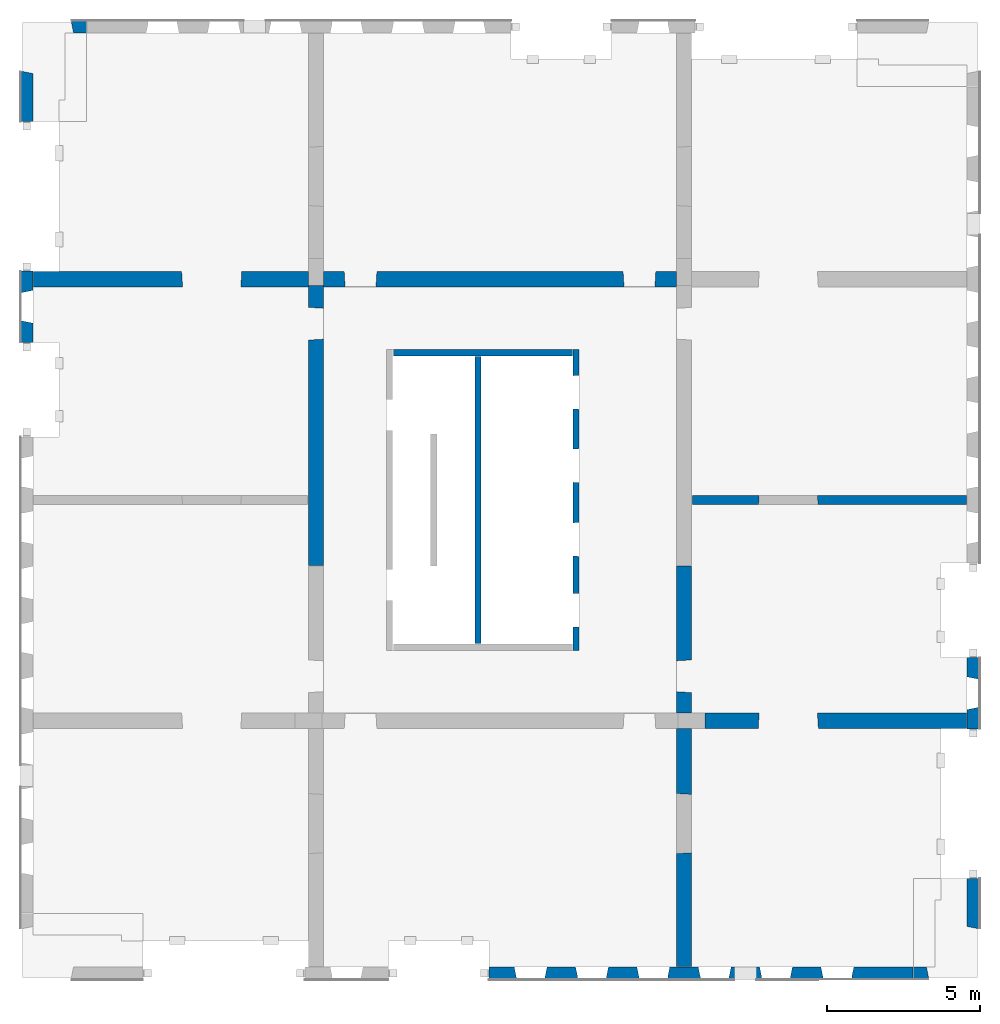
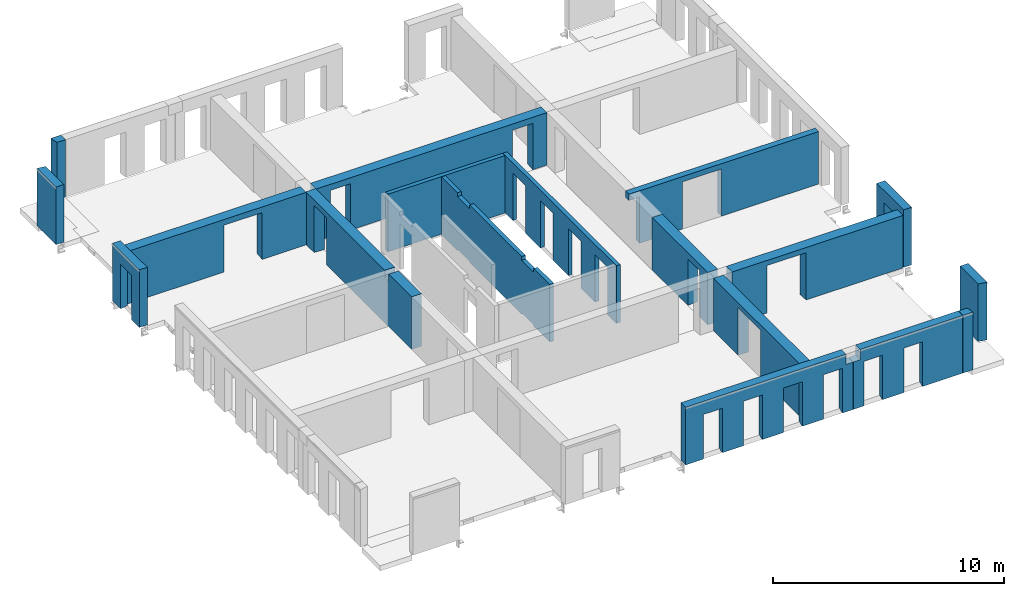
# One storey, part 3 of 5: 18 walls, 36 openings.
"""IFC2X3 building model written with IfcOpenShell, lengths in millimetres."""

from ifc_helpers import new_model, entity, si_unit, converted_unit, derived_unit, direction, frame, frame_2d, origin, origin_2d_with_axis, place, context, subcontext, project, spatial, rectangle, extrude, faceted_brep, material, layer, layer_set, layer_usage, type_object, element, save


model = new_model("IFC2X3")

# Units and contexts
model_context = context("Model", 3, precision=0.01, world=origin(), true_north=direction((6.12303176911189e-17, 1.0)))
body_context = subcontext(model_context, "Body", "Model", "MODEL_VIEW")
ifc_project = project(units=[si_unit("LENGTHUNIT", "METRE", prefix="MILLI"), si_unit("AREAUNIT", "SQUARE_METRE"), si_unit("VOLUMEUNIT", "CUBIC_METRE"), converted_unit("PLANEANGLEUNIT", "DEGREE", entity("IfcRatioMeasure", 0.0174532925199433), si_unit("PLANEANGLEUNIT", "RADIAN"), dimensions=[0, 0, 0, 0, 0, 0, 0]), si_unit("MASSUNIT", "GRAM", prefix="KILO"), derived_unit("MASSDENSITYUNIT", [(si_unit("MASSUNIT", "GRAM", prefix="KILO"), 1), (si_unit("LENGTHUNIT", "METRE"), -3)]), si_unit("TIMEUNIT", "SECOND"), si_unit("FREQUENCYUNIT", "HERTZ"), si_unit("THERMODYNAMICTEMPERATUREUNIT", "DEGREE_CELSIUS"), derived_unit("THERMALTRANSMITTANCEUNIT", [(si_unit("MASSUNIT", "GRAM", prefix="KILO"), 1), (si_unit("THERMODYNAMICTEMPERATUREUNIT", "KELVIN"), -1), (si_unit("TIMEUNIT", "SECOND"), -3)]), derived_unit("VOLUMETRICFLOWRATEUNIT", [(si_unit("LENGTHUNIT", "METRE"), 3), (si_unit("TIMEUNIT", "SECOND"), -1)]), si_unit("ELECTRICCURRENTUNIT", "AMPERE"), si_unit("ELECTRICVOLTAGEUNIT", "VOLT"), si_unit("POWERUNIT", "WATT"), si_unit("FORCEUNIT", "NEWTON", prefix="KILO"), si_unit("ILLUMINANCEUNIT", "LUX"), si_unit("LUMINOUSFLUXUNIT", "LUMEN"), si_unit("LUMINOUSINTENSITYUNIT", "CANDELA"), derived_unit("USERDEFINED", [(si_unit("MASSUNIT", "GRAM", prefix="KILO"), -1), (si_unit("LENGTHUNIT", "METRE"), -2), (si_unit("TIMEUNIT", "SECOND"), 3), (si_unit("LUMINOUSFLUXUNIT", "LUMEN"), 1)]), derived_unit("LINEARVELOCITYUNIT", [(si_unit("LENGTHUNIT", "METRE"), 1), (si_unit("TIMEUNIT", "SECOND"), -1)]), si_unit("PRESSUREUNIT", "PASCAL"), derived_unit("USERDEFINED", [(si_unit("LENGTHUNIT", "METRE"), -2), (si_unit("MASSUNIT", "GRAM", prefix="KILO"), 1), (si_unit("TIMEUNIT", "SECOND"), -2)])], contexts=[model_context])

# Site, building, storey
site_placement = place(None, origin())
site = spatial("IfcSite", under=ifc_project, at=site_placement, Name="Default", CompositionType="ELEMENT")
building_placement = place(site_placement, origin())
building = spatial("IfcBuilding", under=site, at=building_placement, Name="niet gebruiken", CompositionType="ELEMENT")
storey_placement = place(building_placement, frame((0.0, 0.0, 24120.0)))
storey = spatial("IfcBuildingStorey", under=building, at=storey_placement, Name="07 zevende verdieping", CompositionType="ELEMENT", Elevation=24120.0)

# Wall, openings
ifc_material = material(Name="NLRS_f2_beton prefab")
ifc_layer_1 = layer(ifc_material, 200.0)
ifc_layer_set_1 = layer_set([ifc_layer_1], Name="Basic Wall:NLRS_22.21_WA_beton prefab d=200_gen")
ifc_layer_usage_1 = layer_usage(ifc_layer_set_1, "AXIS2", "NEGATIVE", 100.0)
wall_type_1 = type_object("IfcWallType", Name="Basic Wall:NLRS_22.21_WA_beton prefab d=200_gen", PredefinedType="STANDARD", material=ifc_layer_set_1)
wall_1_placement = place(storey_placement, frame((144230.0, 22400.0, -50.0), z_axis=(0.0, 0.0, 1.0), x_axis=(0.0, -1.0, 0.0)))
wall_1 = element("IfcWallStandardCase", 1, at=wall_1_placement, inside=storey, type_object=wall_type_1, material=ifc_layer_usage_1, Name="Basic Wall:NLRS_22.21_WA_beton prefab d=200_gen", ObjectType="Basic Wall:NLRS_22.21_WA_beton prefab d=200_gen", context=body_context, shape_type="SweptSolid", body=[
    extrude(rectangle(XDim=9800.0, YDim=199.999999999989, at=frame_2d((4900.0, -3.69482222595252e-13), x_axis=(-1.0, 0.0))), origin(), (0.0, 0.0, 1.0), 3039.99999999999),
])
opening_1_placement = place(wall_1_placement, frame((9047.0, -100.0, 0.0)))
element("IfcOpeningElement", 2, at=opening_1_placement, cuts=wall_1, Name="Basic Wall:NLRS_22.21_WA_beton prefab d=200_gen", ObjectType="Opening", context=body_context, shape_type="Brep", body=[
    faceted_brep([(-1104.0, 200.0, 2502.0), (-1104.0, 200.0, 0.0), (-1092.0, 0.0, 0.0), (-1092.0, 0.0, 2490.0), (0.0, 200.0, 0.0), (-12.0, 0.0, 0.0), (-12.0, 0.0, 2490.0), (0.0, 200.0, 2502.0)], [[[0, 1, 2, 3]], [[1, 4, 5, 2]], [[6, 3, 2, 5]], [[7, 4, 1, 0]], [[7, 0, 3, 6]], [[4, 7, 6, 5]]]),
])
opening_2_placement = place(wall_1_placement, frame((6737.0, -100.0, 0.0)))
element("IfcOpeningElement", 3, at=opening_2_placement, cuts=wall_1, Name="Basic Wall:NLRS_22.21_WA_beton prefab d=200_gen", ObjectType="Opening", context=body_context, shape_type="Brep", body=[
    faceted_brep([(-1104.0, 200.0, 2502.0), (-1104.0, 200.0, 0.0), (-1092.0, 0.0, 0.0), (-1092.0, 0.0, 2490.0), (0.0, 200.0, 0.0), (-12.0, 0.0, 0.0), (-12.0, 0.0, 2490.0), (0.0, 200.0, 2502.0)], [[[0, 1, 2, 3]], [[1, 4, 5, 2]], [[6, 3, 2, 5]], [[7, 4, 1, 0]], [[7, 0, 3, 6]], [[4, 7, 6, 5]]]),
])
opening_3_placement = place(wall_1_placement, frame((4332.0, -100.0, 0.0)))
element("IfcOpeningElement", 4, at=opening_3_placement, cuts=wall_1, Name="Basic Wall:NLRS_22.21_WA_beton prefab d=200_gen", ObjectType="Opening", context=body_context, shape_type="Brep", body=[
    faceted_brep([(-1104.0, 200.0, 2502.0), (-1104.0, 200.0, 0.0), (-1092.0, 0.0, 0.0), (-1092.0, 0.0, 2490.0), (0.0, 200.0, 0.0), (-12.0, 0.0, 0.0), (-12.0, 0.0, 2490.0), (0.0, 200.0, 2502.0)], [[[0, 1, 2, 3]], [[1, 4, 5, 2]], [[6, 3, 2, 5]], [[7, 4, 1, 0]], [[7, 0, 3, 6]], [[4, 7, 6, 5]]]),
])
opening_4_placement = place(wall_1_placement, frame((1942.0, -100.0, 0.0)))
element("IfcOpeningElement", 5, at=opening_4_placement, cuts=wall_1, Name="Basic Wall:NLRS_22.21_WA_beton prefab d=200_gen", ObjectType="Opening", context=body_context, shape_type="Brep", body=[
    faceted_brep([(-1104.0, 200.0, 2502.0), (-1104.0, 200.0, 0.0), (-1092.0, 0.0, 0.0), (-1092.0, 0.0, 2490.0), (0.0, 200.0, 0.0), (-12.0, 0.0, 0.0), (-12.0, 0.0, 2490.0), (0.0, 200.0, 2502.0)], [[[0, 1, 2, 3]], [[1, 4, 5, 2]], [[6, 3, 2, 5]], [[7, 4, 1, 0]], [[7, 0, 3, 6]], [[4, 7, 6, 5]]]),
])

ifc_layer_usage_2 = layer_usage(ifc_layer_set_1, "AXIS2", "NEGATIVE", 100.0)
wall_2_placement = place(storey_placement, frame((141030.0, 22180.0, -50.0), z_axis=(0.0, 0.0, 1.0), x_axis=(0.0, -1.0, 0.0)))
wall_2 = element("IfcWallStandardCase", 6, at=wall_2_placement, inside=storey, type_object=wall_type_1, material=ifc_layer_usage_2, Name="Basic Wall:NLRS_22.21_WA_beton prefab d=200_gen", ObjectType="Basic Wall:NLRS_22.21_WA_beton prefab d=200_gen", context=body_context, shape_type="SweptSolid", body=[
    extrude(rectangle(XDim=9360.0, YDim=199.999999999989, at=frame_2d((4680.0, -2.8421709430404e-14), x_axis=(-1.0, 0.0))), origin(), (0.0, 0.0, 1.0), 3039.99999999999),
])
opening_5_placement = place(wall_2_placement, origin())
element("IfcOpeningElement", 7, at=opening_5_placement, cuts=wall_2, Name="Basic Wall:NLRS_22.21_WA_beton prefab d=200_gen", ObjectType="Opening", context=body_context, shape_type="SweptSolid", body=[
    extrude(rectangle(XDim=70.0000000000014, YDim=1044.00000000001, at=origin_2d_with_axis()), frame((7452.0, -100.0, 35.0), z_axis=(0.0, 1.0, 0.0), x_axis=(0.0, 0.0, -1.0)), (0.0, 0.0, 1.0), 199.999999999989),
])
opening_6_placement = place(wall_2_placement, origin())
element("IfcOpeningElement", 8, at=opening_6_placement, cuts=wall_2, Name="Basic Wall:NLRS_22.21_WA_beton prefab d=200_gen", ObjectType="Opening", context=body_context, shape_type="SweptSolid", body=[
    extrude(rectangle(XDim=70.0000000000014, YDim=1044.00000000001, at=origin_2d_with_axis()), frame((1908.0, -100.0, 35.0), z_axis=(0.0, 1.0, 0.0), x_axis=(0.0, 0.0, -1.0)), (0.0, 0.0, 1.0), 199.999999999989),
])
opening_7_placement = place(wall_2_placement, origin())
element("IfcOpeningElement", 9, at=opening_7_placement, cuts=wall_2, Name="Basic Wall:NLRS_22.21_WA_beton prefab d=200_gen", ObjectType="Opening", context=body_context, shape_type="SweptSolid", body=[
    extrude(rectangle(XDim=199.999999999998, YDim=1044.00000000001, at=origin_2d_with_axis()), frame((1908.0, -100.0, 2940.0), z_axis=(0.0, 1.0, 0.0), x_axis=(0.0, 0.0, -1.0)), (0.0, 0.0, 1.0), 199.999999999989),
])
opening_8_placement = place(wall_2_placement, origin())
element("IfcOpeningElement", 10, at=opening_8_placement, cuts=wall_2, Name="Basic Wall:NLRS_22.21_WA_beton prefab d=200_gen", ObjectType="Opening", context=body_context, shape_type="SweptSolid", body=[
    extrude(rectangle(XDim=199.999999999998, YDim=1044.00000000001, at=origin_2d_with_axis()), frame((7452.0, -100.0, 2940.0), z_axis=(0.0, 1.0, 0.0), x_axis=(0.0, 0.0, -1.0)), (0.0, 0.0, 1.0), 199.999999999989),
])
opening_9_placement = place(wall_2_placement, origin())
element("IfcOpeningElement", 11, at=opening_9_placement, cuts=wall_2, Name="Basic Wall:NLRS_22.21_WA_beton prefab d=200_gen", ObjectType="Recess", context=body_context, shape_type="SweptSolid", body=[
    extrude(rectangle(XDim=399.999999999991, YDim=280.000000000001, at=frame_2d((-2.1600499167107e-12, 2.1600499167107e-12), x_axis=(0.0, 1.0))), frame((770.0, -60.0, 438.0), z_axis=(0.0, 1.0, 0.0), x_axis=(1.0, 0.0, 0.0)), (0.0, 0.0, 1.0), 159.999999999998),
])
opening_10_placement = place(wall_2_placement, origin())
element("IfcOpeningElement", 12, at=opening_10_placement, cuts=wall_2, Name="Basic Wall:NLRS_22.21_WA_beton prefab d=200_gen", ObjectType="Recess", context=body_context, shape_type="SweptSolid", body=[
    extrude(rectangle(XDim=399.999999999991, YDim=280.000000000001, at=frame_2d((-2.1600499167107e-12, -2.1600499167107e-12), x_axis=(0.0, 1.0))), frame((1570.0, -60.0, 438.0), z_axis=(0.0, 1.0, 0.0), x_axis=(1.0, 0.0, 0.0)), (0.0, 0.0, 1.0), 159.999999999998),
])
opening_11_placement = place(wall_2_placement, origin())
element("IfcOpeningElement", 13, at=opening_11_placement, cuts=wall_2, Name="Basic Wall:NLRS_22.21_WA_beton prefab d=200_gen", ObjectType="Recess", context=body_context, shape_type="SweptSolid", body=[
    extrude(rectangle(XDim=399.999999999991, YDim=279.999999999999, at=frame_2d((-1.08002495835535e-12, -2.1600499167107e-12), x_axis=(0.0, 1.0))), frame((3160.0, -60.0, 438.0), z_axis=(0.0, 1.0, 0.0), x_axis=(1.0, 0.0, 0.0)), (0.0, 0.0, 1.0), 159.999999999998),
])
opening_12_placement = place(wall_2_placement, origin())
element("IfcOpeningElement", 14, at=opening_12_placement, cuts=wall_2, Name="Basic Wall:NLRS_22.21_WA_beton prefab d=200_gen", ObjectType="Recess", context=body_context, shape_type="SweptSolid", body=[
    extrude(rectangle(XDim=399.999999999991, YDim=279.999999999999, at=frame_2d((1.08002495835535e-12, 2.1600499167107e-12), x_axis=(0.0, 1.0))), frame((3960.0, -60.0, 438.0), z_axis=(0.0, 1.0, 0.0), x_axis=(1.0, 0.0, 0.0)), (0.0, 0.0, 1.0), 159.999999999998),
])

# Wall
ifc_layer_usage_3 = layer_usage(ifc_layer_set_1, "AXIS2", "NEGATIVE", 100.0)
wall_3_placement = place(storey_placement, frame((138270.0, 22300.0, -50.0)))
element("IfcWallStandardCase", 15, at=wall_3_placement, inside=storey, type_object=wall_type_1, material=ifc_layer_usage_3, Name="Basic Wall:NLRS_22.21_WA_beton prefab d=200_gen", ObjectType="Basic Wall:NLRS_22.21_WA_beton prefab d=200_gen", context=body_context, shape_type="SweptSolid", body=[
    extrude(rectangle(XDim=5839.99999999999, YDim=199.999999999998, at=frame_2d((2919.99999999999, -7.60280727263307e-13), x_axis=(-1.0, 0.0))), origin(), (0.0, 0.0, 1.0), 3039.99999999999),
])

# Wall, openings
ifc_layer_2 = layer(ifc_material, 300.0)
ifc_layer_set_2 = layer_set([ifc_layer_2], Name="Basic Wall:NLRS_22.21_WA_beton prefab d=300_gen")
ifc_layer_usage_4 = layer_usage(ifc_layer_set_2, "AXIS2", "NEGATIVE", 150.0)
wall_type_2 = type_object("IfcWallType", Name="Basic Wall:NLRS_22.21_WA_beton prefab d=300_gen", PredefinedType="STANDARD", material=ifc_layer_set_2)
wall_4_placement = place(storey_placement, frame((156960.0, 17500.0, -70.0), z_axis=(0.0, 0.0, 1.0), x_axis=(-1.0, 0.0, 0.0)))
wall_4 = element("IfcWallStandardCase", 16, at=wall_4_placement, inside=storey, type_object=wall_type_2, material=ifc_layer_usage_4, Name="Basic Wall:NLRS_22.21_WA_beton prefab d=300_gen", ObjectType="Basic Wall:NLRS_22.21_WA_beton prefab d=300_gen", context=body_context, shape_type="SweptSolid", body=[
    extrude(rectangle(XDim=9460.0, YDim=300.000000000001, at=frame_2d((4730.0, -5.96855898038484e-13), x_axis=(-1.0, 0.0))), origin(), (0.0, 0.0, 1.0), 2770.0),
])
opening_13_placement = place(wall_4_placement, frame((6778.0, 150.0, 0.0)))
element("IfcOpeningElement", 17, at=opening_13_placement, cuts=wall_4, Name="Basic Wall:NLRS_22.21_WA_beton prefab d=300_gen", ObjectType="Opening", context=body_context, shape_type="Brep", body=[
    faceted_brep([(-18.0, -300.0, 2470.0), (-1918.0, -300.0, 2470.0), (-1918.0, -300.0, 0.0), (-18.0, -300.0, 0.0), (0.0, 0.0, 2488.0), (0.0, 0.0, 0.0), (-1936.0, 0.0, 0.0), (-1936.0, 0.0, 2488.0)], [[[0, 1, 2, 3]], [[4, 5, 6, 7]], [[4, 7, 1, 0]], [[7, 6, 2, 1]], [[6, 5, 3, 2]], [[5, 4, 0, 3]]]),
])
opening_14_placement = place(wall_4_placement, origin())
element("IfcOpeningElement", 18, at=opening_14_placement, cuts=wall_4, Name="Basic Wall:NLRS_22.21_WA_beton prefab d=300_gen", ObjectType="Opening", context=body_context, shape_type="SweptSolid", body=[
    extrude(rectangle(XDim=2440.0, YDim=520.000000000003, at=frame_2d((8.64019966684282e-12, 2.1600499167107e-12), x_axis=(0.0, 1.0))), frame((9200.0, 150.0, 1220.0), z_axis=(0.0, -1.0, 0.0), x_axis=(1.0, 0.0, 0.0)), (0.0, 0.0, 1.0), 300.0),
])

# Wall, opening
ifc_layer_3 = layer(ifc_material, 400.0)
ifc_layer_set_3 = layer_set([ifc_layer_3], Name="Basic Wall:NLRS_21.21_WA_beton prefab d=400/420_gen")
ifc_layer_usage_5 = layer_usage(ifc_layer_set_3, "AXIS2", "NEGATIVE", 200.0)
wall_type_3 = type_object("IfcWallType", Name="Basic Wall:NLRS_21.21_WA_beton prefab d=400/420_gen", PredefinedType="STANDARD", material=ifc_layer_set_3)
wall_5_placement = place(storey_placement, frame((155720.0, 2070.0, -50.0), z_axis=(0.0, 0.0, 1.0), x_axis=(-1.0, 0.0, 0.0)))
wall_5 = element("IfcWallStandardCase", 19, at=wall_5_placement, inside=storey, type_object=wall_type_3, material=ifc_layer_usage_5, Name="Basic Wall:NLRS_21.21_WA_beton prefab d=400/420_gen", ObjectType="Basic Wall:NLRS_21.21_WA_beton prefab d=400/420_gen", context=body_context, shape_type="SweptSolid", body=[
    extrude(rectangle(XDim=490.000000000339, YDim=400.0, at=frame_2d((245.00000000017, 4.2632564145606e-14), x_axis=(-1.0, 0.0))), origin(), (0.0, 0.0, 1.0), 3040.0),
])
opening_15_placement = place(wall_5_placement, frame((65.0, 119.0, 0.0)))
element("IfcOpeningElement", 20, at=opening_15_placement, cuts=wall_5, Name="Basic Wall:NLRS_21.21_WA_beton prefab d=400/420_gen", ObjectType="Opening", context=body_context, shape_type="Brep", body=[
    faceted_brep([(-65.0, -319.0, 3040.0), (0.0, -319.0, 3040.0), (-65.0, 0.0, 3040.0), (-65.0, -319.0, 0.0), (-65.0, 0.0, 0.0), (0.0, -319.0, 0.0)], [[[0, 1, 2]], [[3, 4, 5]], [[1, 0, 3, 5]], [[0, 2, 4, 3]], [[2, 1, 5, 4]]]),
])

ifc_layer_usage_6 = layer_usage(ifc_layer_set_3, "AXIS2", "NEGATIVE", 200.0)
wall_6_placement = place(storey_placement, frame((157180.0, 5160.0, -50.0), z_axis=(0.0, 0.0, 1.0), x_axis=(0.0, -1.0, 0.0)))
wall_6 = element("IfcWallStandardCase", 21, at=wall_6_placement, inside=storey, type_object=wall_type_3, material=ifc_layer_usage_6, Name="Basic Wall:NLRS_21.21_WA_beton prefab d=400/420_gen", ObjectType="Basic Wall:NLRS_21.21_WA_beton prefab d=400/420_gen", context=body_context, shape_type="SweptSolid", body=[
    extrude(rectangle(XDim=1629.99999999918, YDim=399.999999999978, at=frame_2d((814.999999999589, 6.28119778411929e-12), x_axis=(-1.0, 0.0))), origin(), (0.0, 0.0, 1.0), 3040.0),
])
opening_16_placement = place(wall_6_placement, frame((1630.0, -200.0, 0.0)))
element("IfcOpeningElement", 22, at=opening_16_placement, cuts=wall_6, Name="Basic Wall:NLRS_21.21_WA_beton prefab d=400/420_gen", ObjectType="Opening", context=body_context, shape_type="Brep", body=[
    faceted_brep([(0.0, 0.0, 3040.0), (0.0, 319.0, 3040.0), (-65.0, 0.0, 3040.0), (0.0, 0.0, 0.0), (-65.0, 0.0, 0.0), (0.0, 319.0, 0.0)], [[[0, 1, 2]], [[3, 4, 5]], [[2, 4, 3, 0]], [[0, 3, 5, 1]], [[1, 5, 4, 2]]]),
])

ifc_layer_usage_7 = layer_usage(ifc_layer_set_3, "AXIS2", "NEGATIVE", 200.0)
wall_7_placement = place(storey_placement, frame((157180.0, 12360.0, -50.0), z_axis=(0.0, 0.0, 1.0), x_axis=(0.0, -1.0, 0.0)))
wall_7 = element("IfcWallStandardCase", 23, at=wall_7_placement, inside=storey, type_object=wall_type_3, material=ifc_layer_usage_7, Name="Basic Wall:NLRS_21.21_WA_beton prefab d=400/420_gen", ObjectType="Basic Wall:NLRS_21.21_WA_beton prefab d=400/420_gen", context=body_context, shape_type="SweptSolid", body=[
    extrude(rectangle(XDim=2320.0, YDim=399.999999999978, at=frame_2d((1160.0, -8.38440428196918e-12), x_axis=(-1.0, 0.0))), origin(), (0.0, 0.0, 1.0), 3040.0),
])
opening_17_placement = place(wall_7_placement, frame((1695.0, -200.0, -20.0)))
element("IfcOpeningElement", 24, at=opening_17_placement, cuts=wall_7, Name="Basic Wall:NLRS_21.21_WA_beton prefab d=400/420_gen", ObjectType="Opening", context=body_context, shape_type="Brep", body=[
    faceted_brep([(-1070.0, 0.0, 2405.0), (-1070.0, 0.0, 0.0), (0.0, 0.0, 0.0), (0.0, 0.0, 2405.0), (-65.0, 319.0, 2370.0), (-1005.0, 319.0, 2370.0), (-65.0, 319.0, 0.0), (-1005.0, 319.0, 0.0), (-1005.0, 400.0, 0.0), (-65.0, 400.0, 0.0), (-1005.0, 400.0, 2370.0), (-65.0, 400.0, 2370.0)], [[[0, 1, 2, 3]], [[3, 4, 5, 0]], [[2, 6, 4, 3]], [[1, 7, 8, 9, 6, 2]], [[0, 5, 7, 1]], [[10, 11, 9, 8]], [[10, 5, 4, 11]], [[11, 4, 6, 9]], [[8, 7, 5, 10]]]),
])

ifc_layer_usage_8 = layer_usage(ifc_layer_set_3, "AXIS2", "NEGATIVE", 200.0)
wall_8_placement = place(storey_placement, frame((126320.0, 22640.0, -50.0), z_axis=(0.0, 0.0, 1.0), x_axis=(0.0, 1.0, 0.0)))
wall_8 = element("IfcWallStandardCase", 25, at=wall_8_placement, inside=storey, type_object=wall_type_3, material=ifc_layer_usage_8, Name="Basic Wall:NLRS_21.21_WA_beton prefab d=400/420_gen", ObjectType="Basic Wall:NLRS_21.21_WA_beton prefab d=400/420_gen", context=body_context, shape_type="SweptSolid", body=[
    extrude(rectangle(XDim=2320.0, YDim=400.000000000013, at=frame_2d((1160.0, -3.62376795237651e-12), x_axis=(-1.0, 0.0))), origin(), (0.0, 0.0, 1.0), 3040.0),
])
opening_18_placement = place(wall_8_placement, frame((625.0, 200.0, -20.0)))
element("IfcOpeningElement", 26, at=opening_18_placement, cuts=wall_8, Name="Basic Wall:NLRS_21.21_WA_beton prefab d=400/420_gen", ObjectType="Opening", context=body_context, shape_type="Brep", body=[
    faceted_brep([(0.0, -400.0, 2405.0), (0.0, -400.0, 0.0), (1070.0, -400.0, 0.0), (1070.0, -400.0, 2405.0), (1005.0, -81.0, 2370.0), (65.0, -81.0, 2370.0), (1005.0, -81.0, 0.0), (65.0, -81.0, 0.0), (65.0, 0.0, 0.0), (1005.0, 0.0, 0.0), (65.0, 0.0, 2370.0), (1005.0, 0.0, 2370.0)], [[[0, 1, 2, 3]], [[3, 4, 5, 0]], [[2, 6, 4, 3]], [[1, 7, 8, 9, 6, 2]], [[0, 5, 7, 1]], [[10, 11, 9, 8]], [[10, 5, 4, 11]], [[11, 4, 6, 9]], [[8, 7, 5, 10]]]),
])

ifc_layer_usage_9 = layer_usage(ifc_layer_set_3, "AXIS2", "NEGATIVE", 200.0)
wall_9_placement = place(storey_placement, frame((127780.0, 32930.0, -50.0)))
wall_9 = element("IfcWallStandardCase", 27, at=wall_9_placement, inside=storey, type_object=wall_type_3, material=ifc_layer_usage_9, Name="Basic Wall:NLRS_21.21_WA_beton prefab d=400/420_gen", ObjectType="Basic Wall:NLRS_21.21_WA_beton prefab d=400/420_gen", context=body_context, shape_type="SweptSolid", body=[
    extrude(rectangle(XDim=490.000000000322, YDim=400.000000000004, at=frame_2d((245.000000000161, 1.06581410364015e-12), x_axis=(-1.0, 0.0))), origin(), (0.0, 0.0, 1.0), 3040.0),
])
opening_19_placement = place(wall_9_placement, frame((0.0, -200.0, 0.0)))
element("IfcOpeningElement", 28, at=opening_19_placement, cuts=wall_9, Name="Basic Wall:NLRS_21.21_WA_beton prefab d=400/420_gen", ObjectType="Opening", context=body_context, shape_type="Brep", body=[
    faceted_brep([(0.0, 0.0, 3040.0), (65.0, 0.0, 3040.0), (0.0, 319.0, 3040.0), (0.0, 0.0, 0.0), (0.0, 319.0, 0.0), (65.0, 0.0, 0.0)], [[[0, 1, 2]], [[3, 4, 5]], [[1, 0, 3, 5]], [[0, 2, 4, 3]], [[2, 1, 5, 4]]]),
])

ifc_layer_usage_10 = layer_usage(ifc_layer_set_3, "AXIS2", "NEGATIVE", 200.0)
wall_10_placement = place(storey_placement, frame((126320.0, 29840.0, -50.0), z_axis=(0.0, 0.0, 1.0), x_axis=(0.0, 1.0, 0.0)))
wall_10 = element("IfcWallStandardCase", 29, at=wall_10_placement, inside=storey, type_object=wall_type_3, material=ifc_layer_usage_10, Name="Basic Wall:NLRS_21.21_WA_beton prefab d=400/420_gen", ObjectType="Basic Wall:NLRS_21.21_WA_beton prefab d=400/420_gen", context=body_context, shape_type="SweptSolid", body=[
    extrude(rectangle(XDim=1629.99999999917, YDim=400.000000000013, at=frame_2d((814.999999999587, 2.41584530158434e-12), x_axis=(-1.0, 0.0))), origin(), (0.0, 0.0, 1.0), 3040.0),
])
opening_20_placement = place(wall_10_placement, frame((1565.0, 119.0, 0.0)))
element("IfcOpeningElement", 30, at=opening_20_placement, cuts=wall_10, Name="Basic Wall:NLRS_21.21_WA_beton prefab d=400/420_gen", ObjectType="Opening", context=body_context, shape_type="Brep", body=[
    faceted_brep([(65.0, -319.0, 3040.0), (65.0, 0.0, 3040.0), (0.0, -319.0, 3040.0), (65.0, -319.0, 0.0), (0.0, -319.0, 0.0), (65.0, 0.0, 0.0)], [[[0, 1, 2]], [[3, 4, 5]], [[2, 4, 3, 0]], [[0, 3, 5, 1]], [[1, 5, 4, 2]]]),
])

# Wall, openings
ifc_layer_usage_11 = layer_usage(ifc_layer_set_3, "AXIS2", "NEGATIVE", 200.0)
wall_11_placement = place(storey_placement, frame((155210.0, 2070.0, -50.0), z_axis=(0.0, 0.0, 1.0), x_axis=(-1.0, 0.0, 0.0)))
wall_11 = element("IfcWallStandardCase", 31, at=wall_11_placement, inside=storey, type_object=wall_type_3, material=ifc_layer_usage_11, Name="Basic Wall:NLRS_21.21_WA_beton prefab d=400/420_gen", ObjectType="Basic Wall:NLRS_21.21_WA_beton prefab d=400/420_gen", context=body_context, shape_type="SweptSolid", body=[
    extrude(rectangle(XDim=5450.00000000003, YDim=400.0, at=frame_2d((2725.00000000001, 4.2632564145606e-14), x_axis=(-1.0, 0.0))), origin(), (0.0, 0.0, 1.0), 3040.0),
])
opening_21_placement = place(wall_11_placement, frame((4995.0, 200.0, -20.0)))
element("IfcOpeningElement", 32, at=opening_21_placement, cuts=wall_11, Name="Basic Wall:NLRS_21.21_WA_beton prefab d=400/420_gen", ObjectType="Opening", context=body_context, shape_type="Brep", body=[
    faceted_brep([(0.0, -400.0, 2405.0), (-1070.0, -400.0, 2405.0), (-1070.0, -400.0, 0.0), (0.0, -400.0, 0.0), (-65.0, -81.0, 2370.0), (-1005.0, -81.0, 2370.0), (-1005.0, -81.0, 0.0), (-1005.0, 0.0, 0.0), (-65.0, 0.0, 0.0), (-65.0, -81.0, 0.0), (-65.0, 0.0, 2370.0), (-1005.0, 0.0, 2370.0)], [[[0, 1, 2, 3]], [[1, 0, 4, 5]], [[2, 1, 5, 6]], [[3, 2, 6, 7, 8, 9]], [[0, 3, 9, 4]], [[10, 8, 7, 11]], [[10, 11, 5, 4]], [[11, 7, 6, 5]], [[8, 10, 4, 9]]]),
])
opening_22_placement = place(wall_11_placement, frame((2995.0, 200.0, -20.0)))
element("IfcOpeningElement", 33, at=opening_22_placement, cuts=wall_11, Name="Basic Wall:NLRS_21.21_WA_beton prefab d=400/420_gen", ObjectType="Opening", context=body_context, shape_type="Brep", body=[
    faceted_brep([(0.0, -400.0, 2405.0), (-1070.0, -400.0, 2405.0), (-1070.0, -400.0, 0.0), (0.0, -400.0, 0.0), (-65.0, -81.0, 2370.0), (-1005.0, -81.0, 2370.0), (-1005.0, -81.0, 0.0), (-1005.0, 0.0, 0.0), (-65.0, 0.0, 0.0), (-65.0, -81.0, 0.0), (-65.0, 0.0, 2370.0), (-1005.0, 0.0, 2370.0)], [[[0, 1, 2, 3]], [[1, 0, 4, 5]], [[2, 1, 5, 6]], [[3, 2, 6, 7, 8, 9]], [[0, 3, 9, 4]], [[10, 8, 7, 11]], [[10, 11, 5, 4]], [[11, 7, 6, 5]], [[8, 10, 4, 9]]]),
])
opening_23_placement = place(wall_11_placement, origin())
element("IfcOpeningElement", 34, at=opening_23_placement, cuts=wall_11, Name="Basic Wall:NLRS_21.21_WA_beton prefab d=400/420_gen", ObjectType="Opening", context=body_context, shape_type="SweptSolid", body=[
    extrude(rectangle(XDim=535.0, YDim=345.000000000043, at=origin_2d_with_axis()), frame((5277.49999999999, 200.0, 2772.5), z_axis=(0.0, -1.0, 0.0), x_axis=(0.0, 0.0, 1.0)), (0.0, 0.0, 1.0), 400.0),
])

ifc_layer_usage_12 = layer_usage(ifc_layer_set_3, "AXIS2", "NEGATIVE", 200.0)
wall_12_placement = place(storey_placement, frame((149740.0, 2070.0, -50.0), z_axis=(0.0, 0.0, 1.0), x_axis=(-1.0, 0.0, 0.0)))
wall_12 = element("IfcWallStandardCase", 35, at=wall_12_placement, inside=storey, type_object=wall_type_3, material=ifc_layer_usage_12, Name="Basic Wall:NLRS_21.21_WA_beton prefab d=400/420_gen", ObjectType="Basic Wall:NLRS_21.21_WA_beton prefab d=400/420_gen", context=body_context, shape_type="SweptSolid", body=[
    extrude(rectangle(XDim=8350.00000000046, YDim=400.0, at=frame_2d((4175.00000000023, 7.105427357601e-14), x_axis=(-1.0, 0.0))), origin(), (0.0, 0.0, 1.0), 3040.0),
])
opening_24_placement = place(wall_12_placement, frame((7525.0, 200.0, -20.0)))
element("IfcOpeningElement", 36, at=opening_24_placement, cuts=wall_12, Name="Basic Wall:NLRS_21.21_WA_beton prefab d=400/420_gen", ObjectType="Opening", context=body_context, shape_type="Brep", body=[
    faceted_brep([(0.0, -400.0, 2405.0), (-1070.0, -400.0, 2405.0), (-1070.0, -400.0, 0.0), (0.0, -400.0, 0.0), (-65.0, -81.0, 2370.0), (-1005.0, -81.0, 2370.0), (-1005.0, -81.0, 0.0), (-1005.0, 0.0, 0.0), (-65.0, 0.0, 0.0), (-65.0, -81.0, 0.0), (-65.0, 0.0, 2370.0), (-1005.0, 0.0, 2370.0)], [[[0, 1, 2, 3]], [[1, 0, 4, 5]], [[2, 1, 5, 6]], [[3, 2, 6, 7, 8, 9]], [[0, 3, 9, 4]], [[10, 8, 7, 11]], [[10, 11, 5, 4]], [[11, 7, 6, 5]], [[8, 10, 4, 9]]]),
])
opening_25_placement = place(wall_12_placement, frame((5525.0, 200.0, -20.0)))
element("IfcOpeningElement", 37, at=opening_25_placement, cuts=wall_12, Name="Basic Wall:NLRS_21.21_WA_beton prefab d=400/420_gen", ObjectType="Opening", context=body_context, shape_type="Brep", body=[
    faceted_brep([(0.0, -400.0, 2405.0), (-1070.0, -400.0, 2405.0), (-1070.0, -400.0, 0.0), (0.0, -400.0, 0.0), (-65.0, -81.0, 2370.0), (-1005.0, -81.0, 2370.0), (-1005.0, -81.0, 0.0), (-1005.0, 0.0, 0.0), (-65.0, 0.0, 0.0), (-65.0, -81.0, 0.0), (-65.0, 0.0, 2370.0), (-1005.0, 0.0, 2370.0)], [[[0, 1, 2, 3]], [[1, 0, 4, 5]], [[2, 1, 5, 6]], [[3, 2, 6, 7, 8, 9]], [[0, 3, 9, 4]], [[10, 8, 7, 11]], [[10, 11, 5, 4]], [[11, 7, 6, 5]], [[8, 10, 4, 9]]]),
])
opening_26_placement = place(wall_12_placement, frame((1525.0, 200.0, -20.0)))
element("IfcOpeningElement", 38, at=opening_26_placement, cuts=wall_12, Name="Basic Wall:NLRS_21.21_WA_beton prefab d=400/420_gen", ObjectType="Opening", context=body_context, shape_type="Brep", body=[
    faceted_brep([(0.0, -400.0, 2405.0), (-1070.0, -400.0, 2405.0), (-1070.0, -400.0, 0.0), (0.0, -400.0, 0.0), (-65.0, -81.0, 2370.0), (-1005.0, -81.0, 2370.0), (-1005.0, -81.0, 0.0), (-1005.0, 0.0, 0.0), (-65.0, 0.0, 0.0), (-65.0, -81.0, 0.0), (-65.0, 0.0, 2370.0), (-1005.0, 0.0, 2370.0)], [[[0, 1, 2, 3]], [[1, 0, 4, 5]], [[2, 1, 5, 6]], [[3, 2, 6, 7, 8, 9]], [[0, 3, 9, 4]], [[10, 8, 7, 11]], [[10, 11, 5, 4]], [[11, 7, 6, 5]], [[8, 10, 4, 9]]]),
])
opening_27_placement = place(wall_12_placement, frame((3525.0, 200.0, -20.0)))
element("IfcOpeningElement", 39, at=opening_27_placement, cuts=wall_12, Name="Basic Wall:NLRS_21.21_WA_beton prefab d=400/420_gen", ObjectType="Opening", context=body_context, shape_type="Brep", body=[
    faceted_brep([(0.0, -400.0, 2405.0), (-1070.0, -400.0, 2405.0), (-1070.0, -400.0, 0.0), (0.0, -400.0, 0.0), (-65.0, -81.0, 2370.0), (-1005.0, -81.0, 2370.0), (-1005.0, -81.0, 0.0), (-1005.0, 0.0, 0.0), (-65.0, 0.0, 0.0), (-65.0, -81.0, 0.0), (-65.0, 0.0, 2370.0), (-1005.0, 0.0, 2370.0)], [[[0, 1, 2, 3]], [[1, 0, 4, 5]], [[2, 1, 5, 6]], [[3, 2, 6, 7, 8, 9]], [[0, 3, 9, 4]], [[10, 8, 7, 11]], [[10, 11, 5, 4]], [[11, 7, 6, 5]], [[8, 10, 4, 9]]]),
])
opening_28_placement = place(wall_12_placement, origin())
element("IfcOpeningElement", 40, at=opening_28_placement, cuts=wall_12, Name="Basic Wall:NLRS_21.21_WA_beton prefab d=400/420_gen", ObjectType="Opening", context=body_context, shape_type="SweptSolid", body=[
    extrude(rectangle(XDim=535.0, YDim=344.999999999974, at=frame_2d((0.0, 0.0), x_axis=(0.0, 1.0))), frame((172.499999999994, 200.0, 2772.5), z_axis=(0.0, -1.0, 0.0), x_axis=(-1.0, 0.0, 0.0)), (0.0, 0.0, 1.0), 400.0),
])

ifc_layer_4 = layer(ifc_material, 500.0)
ifc_layer_set_4 = layer_set([ifc_layer_4], Name="Basic Wall:NLRS_22.21_WA_beton prefab d=500_gen")
ifc_layer_usage_13 = layer_usage(ifc_layer_set_4, "AXIS2", "NEGATIVE", 250.0)
wall_type_4 = type_object("IfcWallType", Name="Basic Wall:NLRS_22.21_WA_beton prefab d=500_gen", PredefinedType="STANDARD", material=ifc_layer_set_4)
wall_13_placement = place(storey_placement, frame((136000.0, 24700.0, -70.0)))
wall_13 = element("IfcWallStandardCase", 41, at=wall_13_placement, inside=storey, type_object=wall_type_4, material=ifc_layer_usage_13, Name="Basic Wall:NLRS_22.21_WA_beton prefab d=500_gen", ObjectType="Basic Wall:NLRS_22.21_WA_beton prefab d=500_gen", context=body_context, shape_type="SweptSolid", body=[
    extrude(rectangle(XDim=11499.9999999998, YDim=499.999999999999, at=frame_2d((5749.99999999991, 0.0), x_axis=(-1.0, 0.0))), origin(), (0.0, 0.0, 1.0), 2770.00000000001),
])
opening_29_placement = place(wall_13_placement, frame((670.0, -250.0, 0.0)))
element("IfcOpeningElement", 42, at=opening_29_placement, cuts=wall_13, Name="Basic Wall:NLRS_22.21_WA_beton prefab d=500_gen", ObjectType="Opening", context=body_context, shape_type="Brep", body=[
    faceted_brep([(1066.0, 500.0, 2478.0), (1036.0, 0.0, 2448.0), (1036.0, 0.0, 0.0), (1066.0, 500.0, 0.0), (30.0, 0.0, 0.0), (0.0, 500.0, 0.0), (30.0, 0.0, 2448.0), (0.0, 500.0, 2478.0)], [[[0, 1, 2, 3]], [[3, 2, 4, 5]], [[6, 4, 2, 1]], [[7, 0, 3, 5]], [[7, 6, 1, 0]], [[5, 4, 6, 7]]]),
])
opening_30_placement = place(wall_13_placement, frame((9764.0, -250.0, 0.0)))
element("IfcOpeningElement", 43, at=opening_30_placement, cuts=wall_13, Name="Basic Wall:NLRS_22.21_WA_beton prefab d=500_gen", ObjectType="Opening", context=body_context, shape_type="Brep", body=[
    faceted_brep([(30.0, 0.0, 2448.0), (30.0, 0.0, 0.0), (1036.0, 0.0, 0.0), (1036.0, 0.0, 2448.0), (0.0, 500.0, 2478.0), (1066.0, 500.0, 2478.0), (1066.0, 500.0, 0.0), (0.0, 500.0, 0.0)], [[[0, 1, 2, 3]], [[4, 5, 6, 7]], [[4, 0, 3, 5]], [[5, 3, 2, 6]], [[6, 2, 1, 7]], [[7, 1, 0, 4]]]),
])

# Wall, opening
ifc_layer_usage_14 = layer_usage(ifc_layer_set_4, "AXIS2", "NEGATIVE", 250.0)
wall_14_placement = place(storey_placement, frame((147750.0, 10050.0, -70.0), z_axis=(0.0, 0.0, 1.0), x_axis=(0.0, -1.0, 0.0)))
wall_14 = element("IfcWallStandardCase", 44, at=wall_14_placement, inside=storey, type_object=wall_type_4, material=ifc_layer_usage_14, Name="Basic Wall:NLRS_22.21_WA_beton prefab d=500_gen", ObjectType="Basic Wall:NLRS_22.21_WA_beton prefab d=500_gen", context=body_context, shape_type="SweptSolid", body=[
    extrude(rectangle(XDim=7759.999999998, YDim=499.99999999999, at=frame_2d((3879.999999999, -1.4210854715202e-14), x_axis=(-1.0, 0.0))), origin(), (0.0, 0.0, 1.0), 2770.0),
])
opening_31_placement = place(wall_14_placement, frame((4080.0, -250.0, 0.0)))
element("IfcOpeningElement", 45, at=opening_31_placement, cuts=wall_14, Name="Basic Wall:NLRS_22.21_WA_beton prefab d=500_gen", ObjectType="Opening", context=body_context, shape_type="Brep", body=[
    faceted_brep([(-30.0, 500.0, 2470.0), (-30.0, 500.0, 0.0), (-1930.0, 500.0, 0.0), (-1930.0, 500.0, 2470.0), (0.0, 0.0, 2500.0), (-1960.0, 0.0, 2500.0), (-1960.0, 0.0, 0.0), (0.0, 0.0, 0.0)], [[[0, 1, 2, 3]], [[4, 5, 6, 7]], [[4, 0, 3, 5]], [[5, 3, 2, 6]], [[6, 2, 1, 7]], [[7, 1, 0, 4]]]),
])

ifc_layer_usage_15 = layer_usage(ifc_layer_set_4, "AXIS2", "NEGATIVE", 250.0)
wall_15_placement = place(storey_placement, frame((135500.003540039, 24700.0, -70.0), z_axis=(0.0, 0.0, 1.0), x_axis=(-1.0, 0.0, 0.0)))
wall_15 = element("IfcWallStandardCase", 46, at=wall_15_placement, inside=storey, type_object=wall_type_4, material=ifc_layer_usage_15, Name="Basic Wall:NLRS_22.21_WA_beton prefab d=500_gen", ObjectType="Basic Wall:NLRS_22.21_WA_beton prefab d=500_gen", context=body_context, shape_type="SweptSolid", body=[
    extrude(rectangle(XDim=8960.00354003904, YDim=499.999999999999, at=frame_2d((4480.00177001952, -7.105427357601e-14), x_axis=(-1.0, 0.0))), origin(), (0.0, 0.0, 1.0), 2770.0),
])
opening_32_placement = place(wall_15_placement, frame((4130.00354003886, 250.0, 0.0)))
element("IfcOpeningElement", 47, at=opening_32_placement, cuts=wall_15, Name="Basic Wall:NLRS_22.21_WA_beton prefab d=500_gen", ObjectType="Opening", context=body_context, shape_type="Brep", body=[
    faceted_brep([(-1930.0, 0.0, 2470.0), (-30.0, 0.0, 2470.0), (-30.0, 0.0, 0.0), (-1930.0, 0.0, 0.0), (-1960.0, -500.0, 2500.0), (-1960.0, -500.0, 0.0), (0.0, -500.0, 0.0), (0.0, -500.0, 2500.0)], [[[0, 1, 2, 3]], [[4, 5, 6, 7]], [[4, 7, 1, 0]], [[7, 6, 2, 1]], [[6, 5, 3, 2]], [[5, 4, 0, 3]]]),
])

ifc_layer_usage_16 = layer_usage(ifc_layer_set_4, "AXIS2", "NEGATIVE", 250.0)
wall_16_placement = place(storey_placement, frame((148430.0, 10300.0, -70.0)))
wall_16 = element("IfcWallStandardCase", 48, at=wall_16_placement, inside=storey, type_object=wall_type_4, material=ifc_layer_usage_16, Name="Basic Wall:NLRS_22.21_WA_beton prefab d=500_gen", ObjectType="Basic Wall:NLRS_22.21_WA_beton prefab d=500_gen", context=body_context, shape_type="SweptSolid", body=[
    extrude(rectangle(XDim=8530.00000000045, YDim=499.999999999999, at=frame_2d((4265.00000000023, -2.27373675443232e-13), x_axis=(-1.0, 0.0))), origin(), (0.0, 0.0, 1.0), 2770.0),
])
opening_33_placement = place(wall_16_placement, frame((1740.0, -250.0, 0.0)))
element("IfcOpeningElement", 49, at=opening_33_placement, cuts=wall_16, Name="Basic Wall:NLRS_22.21_WA_beton prefab d=500_gen", ObjectType="Opening", context=body_context, shape_type="Brep", body=[
    faceted_brep([(30.0, 500.0, 2470.0), (1930.0, 500.0, 2470.0), (1930.0, 500.0, 0.0), (30.0, 500.0, 0.0), (0.0, 0.0, 2500.0), (0.0, 0.0, 0.0), (1960.0, 0.0, 0.0), (1960.0, 0.0, 2500.0)], [[[0, 1, 2, 3]], [[4, 5, 6, 7]], [[4, 7, 1, 0]], [[7, 6, 2, 1]], [[6, 5, 3, 2]], [[5, 4, 0, 3]]]),
])

ifc_layer_usage_17 = layer_usage(ifc_layer_set_4, "AXIS2", "NEGATIVE", 250.0)
wall_17_placement = place(storey_placement, frame((147750.0, 15340.0, -70.0), z_axis=(0.0, 0.0, 1.0), x_axis=(0.0, -1.0, 0.0)))
wall_17 = element("IfcWallStandardCase", 50, at=wall_17_placement, inside=storey, type_object=wall_type_4, material=ifc_layer_usage_17, Name="Basic Wall:NLRS_22.21_WA_beton prefab d=500_gen", ObjectType="Basic Wall:NLRS_22.21_WA_beton prefab d=500_gen", context=body_context, shape_type="SweptSolid", body=[
    extrude(rectangle(XDim=4789.99999999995, YDim=499.99999999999, at=frame_2d((2394.99999999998, 0.0), x_axis=(-1.0, 0.0))), origin(), (0.0, 0.0, 1.0), 2770.00000000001),
])
opening_34_placement = place(wall_17_placement, frame((4120.0, -250.0, 0.0)))
element("IfcOpeningElement", 51, at=opening_34_placement, cuts=wall_17, Name="Basic Wall:NLRS_22.21_WA_beton prefab d=500_gen", ObjectType="Opening", context=body_context, shape_type="Brep", body=[
    faceted_brep([(-1066.0, 500.0, 2478.0), (-1066.0, 500.0, 0.0), (-1036.0, 0.0, 0.0), (-1036.0, 0.0, 2448.0), (0.0, 500.0, 0.0), (-30.0, 0.0, 0.0), (-30.0, 0.0, 2448.0), (0.0, 500.0, 2478.0)], [[[0, 1, 2, 3]], [[1, 4, 5, 2]], [[6, 3, 2, 5]], [[7, 4, 1, 0]], [[7, 0, 3, 6]], [[4, 7, 6, 5]]]),
])

# Wall, openings
ifc_layer_usage_18 = layer_usage(ifc_layer_set_4, "AXIS2", "NEGATIVE", 250.0)
wall_18_placement = place(storey_placement, frame((135750.0, 24500.0, -70.0), z_axis=(0.0, 0.0, 1.0), x_axis=(0.0, -1.0, 0.0)))
wall_18 = element("IfcWallStandardCase", 52, at=wall_18_placement, inside=storey, type_object=wall_type_4, material=ifc_layer_usage_18, Name="Basic Wall:NLRS_22.21_WA_beton prefab d=500_gen", ObjectType="Basic Wall:NLRS_22.21_WA_beton prefab d=500_gen", context=body_context, shape_type="SweptSolid", body=[
    extrude(rectangle(XDim=9140.0, YDim=499.99999999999, at=frame_2d((4570.0, 5.6843418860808e-14), x_axis=(-1.0, 0.0))), origin(), (0.0, 0.0, 1.0), 2770.00000000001),
])
opening_35_placement = place(wall_18_placement, frame((1786.0, -250.0, 0.0)))
element("IfcOpeningElement", 53, at=opening_35_placement, cuts=wall_18, Name="Basic Wall:NLRS_22.21_WA_beton prefab d=500_gen", ObjectType="Opening", context=body_context, shape_type="Brep", body=[
    faceted_brep([(-1066.0, 0.0, 2478.0), (-1036.0, 500.0, 2448.0), (-1036.0, 500.0, 0.0), (-1066.0, 0.0, 0.0), (-30.0, 500.0, 0.0), (0.0, 0.0, 0.0), (-30.0, 500.0, 2448.0), (0.0, 0.0, 2478.0)], [[[0, 1, 2, 3]], [[3, 2, 4, 5]], [[6, 4, 2, 1]], [[7, 0, 3, 5]], [[7, 6, 1, 0]], [[5, 4, 6, 7]]]),
])
opening_36_placement = place(wall_18_placement, origin())
element("IfcOpeningElement", 54, at=opening_36_placement, cuts=wall_18, Name="Basic Wall:NLRS_22.21_WA_beton prefab d=500_gen", ObjectType="Opening", context=body_context, shape_type="SweptSolid", body=[
    extrude(rectangle(XDim=349.999999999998, YDim=340.000000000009, at=frame_2d((0.0, 0.0), x_axis=(0.0, 1.0))), frame((7000.0, 250.0, 2595.0), z_axis=(0.0, -1.0, 0.0), x_axis=(-1.0, 0.0, 0.0)), (0.0, 0.0, 1.0), 500.0),
])

save(model, "model.ifc")
